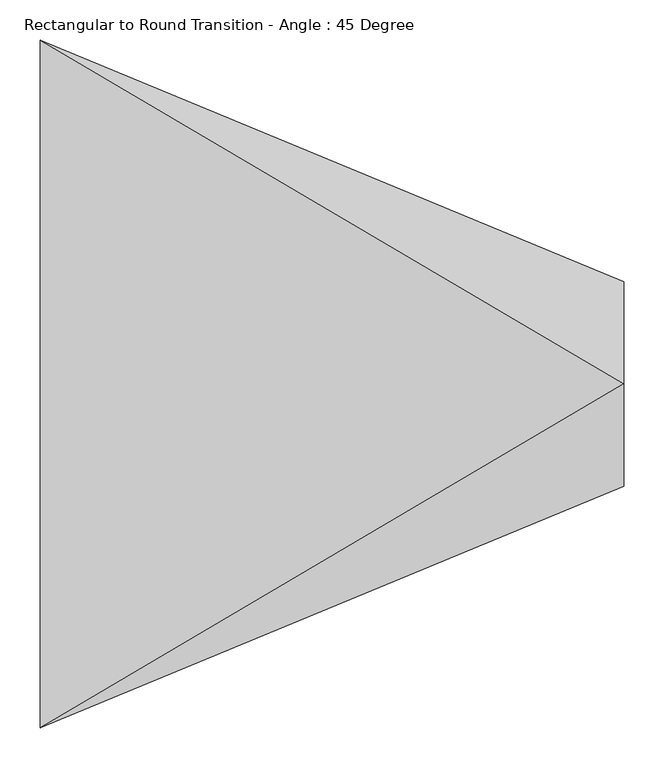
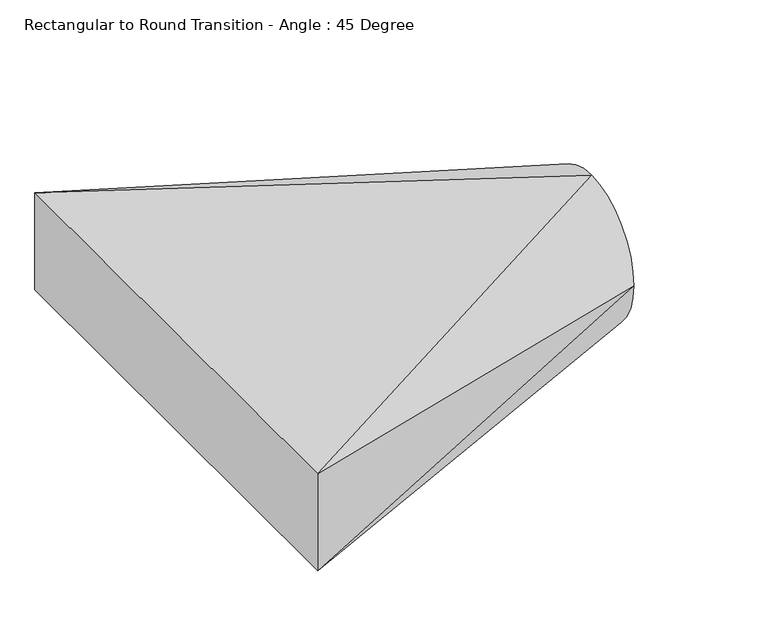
"""IFC4 building model written with IfcOpenShell, lengths in millimetres: duct fitting geometry, Rectangular to Round Transition - Angle : 45 Degree."""

from ifc_helpers import new_model, si_unit, frame, origin, place, context, project, spatial, circle_curve, source, transform, mapped, element, save
from ifc_brep_helpers import plane_surface, spline_surface, advanced_brep


def rectangular_to_round_transition_angle_45_degree_daff1ed7(model_context):
    return source(origin(), model_context, "Body", "AdvancedBrep", [
        advanced_brep(
        [(726.2708837, 0.0, 127.0), (726.2708837, -127.0, 0.0), (726.2708837, 0.0, -127.0), (726.2708837, 127.0, 0.0), (0.0, -427.83125, 89.69375), (0.0, 427.83125, 89.69375), (0.0, 427.83125, -89.69375), (0.0, -427.83125, -89.69375)],
        [
            (0, 1, circle_curve(frame((726.2708837, 0.0, 0.0), z_axis=(1.0, 0.0, 0.0), x_axis=(0.0, 1.0, 0.0)), 127.0)),
            (1, 2, circle_curve(frame((726.2708837, 0.0, 0.0), z_axis=(1.0, 0.0, 0.0), x_axis=(0.0, 1.0, 0.0)), 127.0)),
            (2, 3, circle_curve(frame((726.2708837, 0.0, 0.0), z_axis=(1.0, 0.0, 0.0), x_axis=(0.0, 1.0, 0.0)), 127.0)),
            (3, 0, circle_curve(frame((726.2708837, 0.0, 0.0), z_axis=(1.0, 0.0, 0.0), x_axis=(0.0, 1.0, 0.0)), 127.0)),
            (4, 5),
            (5, 6),
            (6, 7),
            (7, 4),
            (0, 4),
            (4, 1),
            (7, 1),
            (7, 2),
            (6, 2),
            (6, 3),
            (5, 3),
            (5, 0),
        ],
        [
            plane_surface(frame((726.2708837, 0.0, 0.0), z_axis=(1.0, 0.0, 0.0), x_axis=(0.0, 0.0, -1.0))),
            plane_surface(frame((0.0, 0.0, 0.0), z_axis=(-1.0, 0.0, 0.0), x_axis=(0.0, 0.0, -1.0))),
            spline_surface(2, 1, [[(0.0, -427.83125, 89.69375), (726.2708837, 0.0, 127.0)], [(0.0, -427.83125, 89.69375), (726.2708837, -127.0, 127.0)], [(0.0, -427.83125, 89.69375), (726.2708837, -127.0, 0.0)]], [3, 3], [2, 2], [0.0, 1.0], [0.0, 1.0], weights=[[1.0, 1.0], [0.7071067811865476, 0.7071067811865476], [1.0, 1.0]]),
            plane_surface(frame((0.0, -427.83125, 0.0), z_axis=(0.3826834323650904, -0.9238795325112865, 0.0), x_axis=(0.0, 0.0, -1.0))),
            spline_surface(2, 1, [[(0.0, -427.83125, -89.69375), (726.2708837, -127.0, 0.0)], [(0.0, -427.83125, -89.69375), (726.2708837, -127.0, -127.0)], [(0.0, -427.83125, -89.69375), (726.2708837, 0.0, -127.0)]], [3, 3], [2, 2], [0.0, 1.0], [0.0, 1.0], weights=[[1.0, 1.0], [0.7071067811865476, 0.7071067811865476], [1.0, 1.0]]),
            plane_surface(frame((0.0, 0.0, -89.69375), z_axis=(-0.05129922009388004, 0.0, -0.9986833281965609), x_axis=(0.0, 1.0, 0.0))),
            spline_surface(2, 1, [[(0.0, 427.83125, -89.69375), (726.2708837, 0.0, -127.0)], [(0.0, 427.83125, -89.69375), (726.2708837, 127.0, -127.0)], [(0.0, 427.83125, -89.69375), (726.2708837, 127.0, 0.0)]], [3, 3], [2, 2], [0.0, 1.0], [0.0, 1.0], weights=[[1.0, 1.0], [0.7071067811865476, 0.7071067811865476], [1.0, 1.0]]),
            plane_surface(frame((0.0, 427.83125, 0.0), z_axis=(0.38268343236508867, 0.9238795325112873, 0.0), x_axis=(0.0, 0.0, 1.0))),
            spline_surface(2, 1, [[(0.0, 427.83125, 89.69375), (726.2708837, 127.0, 0.0)], [(0.0, 427.83125, 89.69375), (726.2708837, 127.0, 127.0)], [(0.0, 427.83125, 89.69375), (726.2708837, 0.0, 127.0)]], [3, 3], [2, 2], [0.0, 1.0], [0.0, 1.0], weights=[[1.0, 1.0], [0.7071067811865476, 0.7071067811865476], [1.0, 1.0]]),
            plane_surface(frame((0.0, 0.0, 89.69375), z_axis=(-0.0512992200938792, 0.0, 0.9986833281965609), x_axis=(0.0, -1.0, 0.0))),
        ],
        [
            (0, [[1, 2, 3, 4]]),
            (1, [[5, 6, 7, 8]]),
            (2, [[-1, 9, 10]]),
            (3, [[-8, 11, -10]]),
            (4, [[-2, -11, 12]]),
            (5, [[-7, 13, -12]]),
            (6, [[-3, -13, 14]]),
            (7, [[-6, 15, -14]]),
            (8, [[-4, -15, 16]]),
            (9, [[-5, -9, -16]]),
        ],
    ),
    ])


if __name__ == "__main__":
    model = new_model("IFC4")
    model_context = context("Model", 3, world=origin())
    ifc_project = project(units=[si_unit("LENGTHUNIT", "METRE", prefix="MILLI")], contexts=[model_context])
    site = spatial("IfcSite", under=ifc_project)
    building = spatial("IfcBuilding", under=site)
    placement = place(None, origin())
    rectangular_to_round_transition_angle_45_degree_shape = rectangular_to_round_transition_angle_45_degree_daff1ed7(model_context)
    element("IfcDuctFitting", 1, ObjectType="Rectangular to Round Transition - Angle : 45 Degree", at=placement, inside=building, context=model_context, shape_type="MappedRepresentation", body=[
        mapped(rectangular_to_round_transition_angle_45_degree_shape, transform((0.0, 0.0, 0.0), x_axis=(1.0, 0.0, 0.0), y_axis=(0.0, 1.0, 0.0), z_axis=(0.0, 0.0, 1.0))),
    ])
    save(model, "model.ifc")
